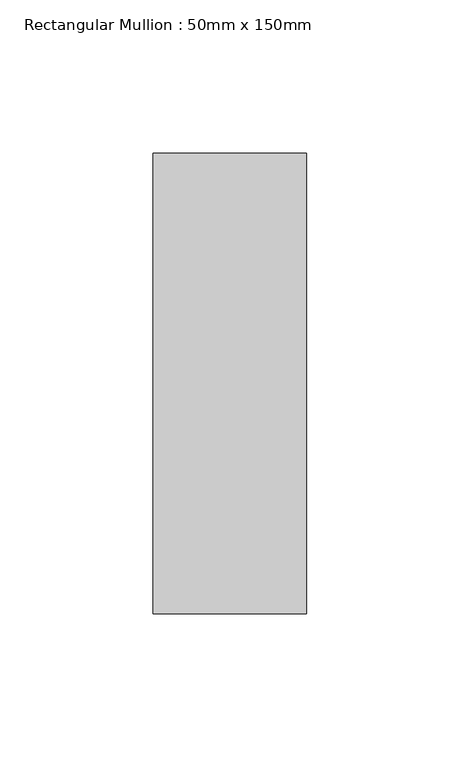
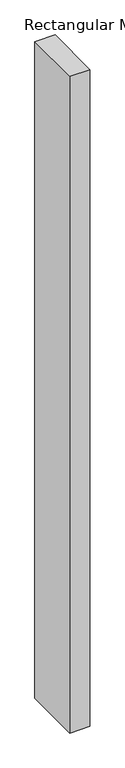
"""IFC4 building model written with IfcOpenShell, lengths in millimetres: member geometry, Rectangular Mullion : 50mm x 150mm."""

import ifcopenshell
import ifcopenshell.guid

model = None  # the IFC model being written
_history = None  # IfcOwnerHistory: only IFC2X3 demands one
_inside = {}  # id of a spatial element -> (the spatial element, [elements in it])
_under = {}  # id of a project, library or spatial element -> (it, [spatial elements below it])
_declared = {}  # id of a project -> (the project, [libraries it declares])
_typed = {}  # id of a type object -> (the type object, [elements of that type])
_made_of = {}  # id of a material, layer set ... -> (it, [elements and type objects made of it])


def new_model(schema):
    """Start an empty IFC model of exactly this schema.

    Asked for "IFC4X3", IfcOpenShell would pick the latest addendum, in which some entities
    have other attributes; the version numbers below select the first issue.
    IFC2X3 requires an IfcOwnerHistory on every rooted entity: one is made here for all.
    """
    global model, _history
    if schema == "IFC4X3":
        model = ifcopenshell.file(schema_version=(4, 3, 0, 0))
    else:
        model = ifcopenshell.file(schema=schema)
    _inside.clear()
    _under.clear()
    _declared.clear()
    _typed.clear()
    _made_of.clear()
    _history = None
    if model.schema == "IFC2X3":
        org = make("IfcOrganization", Name="unknown")
        user = make(
            "IfcPersonAndOrganization",
            ThePerson=make("IfcPerson", FamilyName="unknown"),
            TheOrganization=org,
        )
        app = make(
            "IfcApplication",
            ApplicationDeveloper=org,
            Version="unknown",
            ApplicationFullName="unknown",
            ApplicationIdentifier="unknown",
        )
        _history = make(
            "IfcOwnerHistory",
            OwningUser=user,
            OwningApplication=app,
            ChangeAction="ADDED",
            CreationDate=0,
        )
    return model


def make(cls, **values):
    """One entity of the class cls with the attributes given. An attribute that is None is left unset."""
    return model.create_entity(
        cls, **{name: value for name, value in values.items() if value is not None}
    )


def rooted(cls, **values):
    """An entity with a GlobalId (a new one), such as an element, a storey or a relation."""
    return make(cls, GlobalId=ifcopenshell.guid.new(), OwnerHistory=_history, **values)


def si_unit(unit_type, name, prefix=None):
    """IfcSIUnit, for example si_unit("LENGTHUNIT", "METRE", prefix="MILLI")."""
    return make("IfcSIUnit", UnitType=unit_type, Prefix=prefix, Name=name)


def assignment(units):
    """IfcUnitAssignment: the units of a project."""
    return None if units is None else make("IfcUnitAssignment", Units=units)


def point(xyz):
    """IfcCartesianPoint."""
    return None if xyz is None else make("IfcCartesianPoint", Coordinates=xyz)


def direction(xyz):
    """IfcDirection."""
    return None if xyz is None else make("IfcDirection", DirectionRatios=xyz)


def frame(location, z_axis=None, x_axis=None):
    """IfcAxis2Placement3D, a coordinate frame: its origin and axes. An axis left out is left unset."""
    return make(
        "IfcAxis2Placement3D",
        Location=point(location),
        Axis=direction(z_axis),
        RefDirection=direction(x_axis),
    )


def origin():
    """The frame at (0, 0, 0) with its axes left unset."""
    return frame((0.0, 0.0, 0.0))


def place(relative_to, where):
    """IfcLocalPlacement: puts the frame where relative to a parent placement (None: the world)."""
    return make(
        "IfcLocalPlacement", PlacementRelTo=relative_to, RelativePlacement=where
    )


def context(
    kind, dimensions, precision=None, world=None, true_north=None, identifier=None
):
    """IfcGeometricRepresentationContext, for example the 3D "Model" context."""
    return make(
        "IfcGeometricRepresentationContext",
        ContextIdentifier=identifier,
        ContextType=kind,
        CoordinateSpaceDimension=dimensions,
        Precision=precision,
        WorldCoordinateSystem=world,
        TrueNorth=true_north,
    )


def project(units=None, contexts=None):
    """IfcProject with its units and contexts."""
    return rooted(
        "IfcProject",
        Name="project",
        RepresentationContexts=contexts,
        UnitsInContext=assignment(units),
    )


def spatial(cls, under=None, at=None, **own):
    """A site, building, storey or space (cls), placed at a placement, below another one or the project."""
    s = rooted(cls, ObjectPlacement=at, **own)
    if under is not None:
        _under.setdefault(under.id(), (under, []))[1].append(s)
    return s


def polyline(points):
    """IfcPolyline through the points."""
    return make("IfcPolyline", Points=[point(p) for p in points])


def outline(outer, holes=None, kind="AREA"):
    """IfcArbitraryClosedProfileDef: a profile drawn as a closed curve; with holes, ...WithVoids."""
    if holes is None:
        return make("IfcArbitraryClosedProfileDef", ProfileType=kind, OuterCurve=outer)
    return make(
        "IfcArbitraryProfileDefWithVoids",
        ProfileType=kind,
        OuterCurve=outer,
        InnerCurves=holes,
    )


def extrude(swept, where, along, depth):
    """IfcExtrudedAreaSolid: the profile swept, set in the frame where, extruded along a direction by depth."""
    return make(
        "IfcExtrudedAreaSolid",
        SweptArea=swept,
        Position=where,
        ExtrudedDirection=direction(along),
        Depth=depth,
    )


def shape(context_of_items, identifier, shape_type, items):
    """IfcShapeRepresentation: the items that make up one representation, for example the "Body"."""
    return make(
        "IfcShapeRepresentation",
        ContextOfItems=context_of_items,
        RepresentationIdentifier=identifier,
        RepresentationType=shape_type,
        Items=items,
    )


def source(mapping_origin, context_of_items, identifier, shape_type, items):
    """IfcRepresentationMap: a shape defined once, which mapped items show again and again."""
    return make(
        "IfcRepresentationMap",
        MappingOrigin=mapping_origin,
        MappedRepresentation=shape(context_of_items, identifier, shape_type, items),
    )


def transform(
    local_origin,
    x_axis=None,
    y_axis=None,
    z_axis=None,
    scale=None,
    scale2=None,
    scale3=None,
    uniform=True,
):
    """IfcCartesianTransformationOperator3D, or its non-uniform kind. x_axis, y_axis, z_axis: its Axis1, 2, 3."""
    if uniform:
        return make(
            "IfcCartesianTransformationOperator3D",
            Axis1=direction(x_axis),
            Axis2=direction(y_axis),
            LocalOrigin=point(local_origin),
            Scale=scale,
            Axis3=direction(z_axis),
        )
    return make(
        "IfcCartesianTransformationOperator3DnonUniform",
        Axis1=direction(x_axis),
        Axis2=direction(y_axis),
        LocalOrigin=point(local_origin),
        Scale=scale,
        Axis3=direction(z_axis),
        Scale2=scale2,
        Scale3=scale3,
    )


def mapped(mapping_source, mapping_target):
    """IfcMappedItem: shows the shape of a source again, moved by a transform."""
    return make(
        "IfcMappedItem", MappingSource=mapping_source, MappingTarget=mapping_target
    )


def made_of(thing, what):
    """Note that an element or type object is made of a material, layer set ...; save() writes the relation."""
    if what is not None:
        _made_of.setdefault(what.id(), (what, []))[1].append(thing)
    return thing


def element(
    cls,
    number,
    at=None,
    inside=None,
    cuts=None,
    type_object=None,
    material=None,
    context=None,
    identifier="Body",
    shape_type=None,
    held_by="IfcProductDefinitionShape",
    body=None,
    shapes=None,
    **own,
):
    """One element of the class cls, such as IfcWall. Its Tag is "e" and its number.

    at: its placement. inside: the storey or other place that contains it. cuts: it is an
    opening in that element (IfcRelVoidsElement). A single representation is given by context,
    identifier, shape_type and body (its items); several are given by shapes. held_by: the class
    of the entity that holds the representations. save() writes the other relations.
    """
    e = rooted(cls, Tag="e%d" % number, ObjectPlacement=at, **own)
    if body is not None:
        shapes = [shape(context, identifier, shape_type, body)]
    if shapes is not None:
        e.Representation = make(held_by, Representations=shapes)
    if inside is not None:
        _inside.setdefault(inside.id(), (inside, []))[1].append(e)
    if cuts is not None:
        rooted(
            "IfcRelVoidsElement", RelatingBuildingElement=cuts, RelatedOpeningElement=e
        )
    if type_object is not None:
        _typed.setdefault(type_object.id(), (type_object, []))[1].append(e)
    return made_of(e, material)


def aggregate(whole, parts):
    """IfcRelAggregates: a whole, such as a stair, and the parts it consists of."""
    return rooted("IfcRelAggregates", RelatingObject=whole, RelatedObjects=parts)


def save(model, path):
    """Write the relations noted so far, then the file.

    IfcRelAggregates (storeys below a building ...), IfcRelContainedInSpatialStructure (elements
    in a storey), IfcRelDefinesByType, IfcRelAssociatesMaterial and IfcRelDeclares: one each for
    every whole, place, type object, material and project.
    """
    for whole, parts in _under.values():
        aggregate(whole, parts)
    for where, things in _inside.values():
        rooted(
            "IfcRelContainedInSpatialStructure",
            RelatedElements=things,
            RelatingStructure=where,
        )
    for kind, things in _typed.values():
        rooted("IfcRelDefinesByType", RelatedObjects=things, RelatingType=kind)
    for what, things in _made_of.values():
        rooted("IfcRelAssociatesMaterial", RelatedObjects=things, RelatingMaterial=what)
    for by, libraries in _declared.values():
        rooted("IfcRelDeclares", RelatingContext=by, RelatedDefinitions=libraries)
    model.write(path)


def rectangular_mullion_50mm_x_150mm_3dc27107(model_context):
    return source(origin(), model_context, "Body", "SweptSolid", [
        extrude(outline(polyline([(25.0, 75.0), (25.0, -75.0), (-25.0, -75.0), (-25.0, 75.0), (25.0, 75.0)])), frame((0.0, 0.0, -1725.0000003), z_axis=(0.0, 0.0, 1.0), x_axis=(1.0, 0.0, 0.0)), (0.0, 0.0, 1.0), 1725.0000003),
    ])


if __name__ == "__main__":
    model = new_model("IFC4")
    model_context = context("Model", 3, world=origin())
    ifc_project = project(units=[si_unit("LENGTHUNIT", "METRE", prefix="MILLI")], contexts=[model_context])
    site = spatial("IfcSite", under=ifc_project)
    building = spatial("IfcBuilding", under=site)
    placement = place(None, origin())
    rectangular_mullion_50mm_x_150mm_shape = rectangular_mullion_50mm_x_150mm_3dc27107(model_context)
    element("IfcMember", 1, ObjectType="Rectangular Mullion : 50mm x 150mm", at=placement, inside=building, context=model_context, shape_type="MappedRepresentation", body=[
        mapped(rectangular_mullion_50mm_x_150mm_shape, transform((0.0, 0.0, 0.0), x_axis=(1.0, 0.0, 0.0), y_axis=(0.0, 1.0, 0.0), z_axis=(0.0, 0.0, 1.0))),
    ])
    save(model, "model.ifc")
